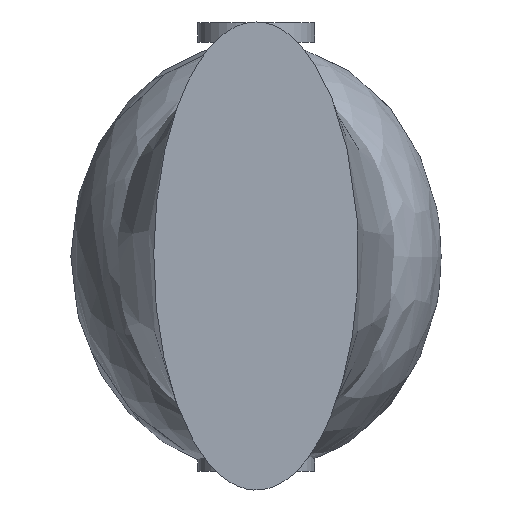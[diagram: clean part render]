
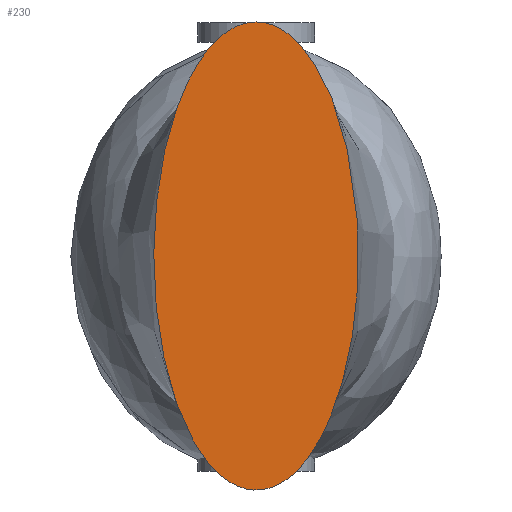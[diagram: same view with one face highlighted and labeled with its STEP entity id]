
A CAD part, top view. The second image highlights one B-rep face of the part: STEP entity #230.
In plain terms, the highlighted planar face has unit normal (0, 0, 1).
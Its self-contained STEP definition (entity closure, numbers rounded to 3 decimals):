
#134 = VERTEX_POINT('',#135);
#135 = CARTESIAN_POINT('',(0.,24.,39.));
#142 = EDGE_CURVE('',#134,#134,#143,.T.);
#143 = B_SPLINE_CURVE_WITH_KNOTS('',14,(#144,#145,#146,#147,#148,#149,
    #150,#151,#152,#153,#154,#155,#156,#157,#158),.UNSPECIFIED.,.T.,.F.,
  (15,15),(0.,1.),.PIECEWISE_BEZIER_KNOTS.);
#144 = CARTESIAN_POINT('',(0.,24.,39.));
#145 = CARTESIAN_POINT('',(-4.712,24.,39.));
#146 = CARTESIAN_POINT('',(-9.425,18.794,39.));
#147 = CARTESIAN_POINT('',(-12.945,8.382,39.));
#148 = CARTESIAN_POINT('',(-14.079,-5.679,39.));
#149 = CARTESIAN_POINT('',(-12.064,-20.275,39.));
#150 = CARTESIAN_POINT('',(-6.992,-31.417,39.));
#151 = CARTESIAN_POINT('',(0.,-35.612,39.));
#152 = CARTESIAN_POINT('',(6.992,-31.417,39.));
#153 = CARTESIAN_POINT('',(12.064,-20.275,39.));
#154 = CARTESIAN_POINT('',(14.079,-5.679,39.));
#155 = CARTESIAN_POINT('',(12.945,8.382,39.));
#156 = CARTESIAN_POINT('',(9.425,18.794,39.));
#157 = CARTESIAN_POINT('',(4.712,24.,39.));
#158 = CARTESIAN_POINT('',(0.,24.,39.));
#230 = ADVANCED_FACE('',(#231),#234,.F.);
#231 = FACE_BOUND('',#232,.T.);
#232 = EDGE_LOOP('',(#233));
#233 = ORIENTED_EDGE('',*,*,#142,.T.);
#234 = PLANE('',#235);
#235 = AXIS2_PLACEMENT_3D('',#236,#237,#238);
#236 = CARTESIAN_POINT('',(0.,24.,39.));
#237 = DIRECTION('',(0.,0.,-1.));
#238 = DIRECTION('',(0.,-1.,-0.));
